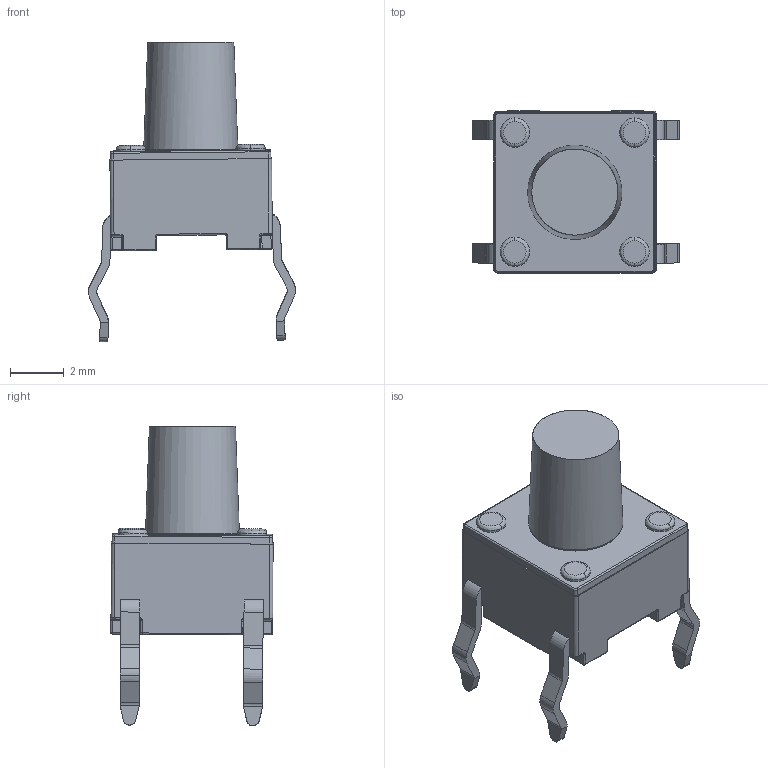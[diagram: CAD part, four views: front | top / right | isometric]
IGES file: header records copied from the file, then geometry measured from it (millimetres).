
Global section: file name: Filename.iges; native system: Open CASCADE 7.3; preprocessor: Open CASCADE IGES processor 7.3; date: 20210813.142843; units: millimetre
Bounding box: 7.69 x 6.03 x 11.14 mm (x, y, z)
Surface area: 260.8 mm2 (no closed solid volume)
Topology: 0 solids, 0 shells, 294 faces, 1410 edges, 1382 vertices
Faces by surface type: revolution 204, plane 90
